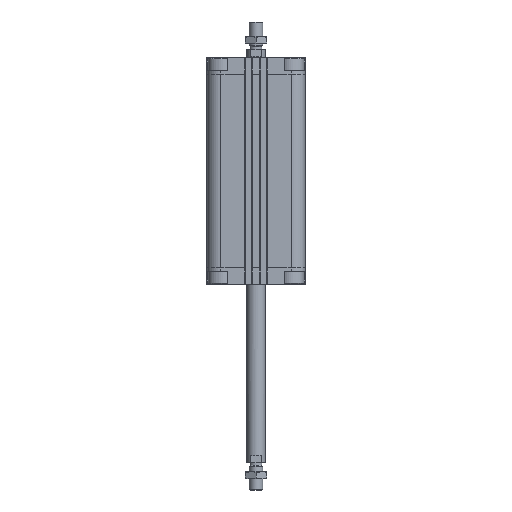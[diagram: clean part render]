
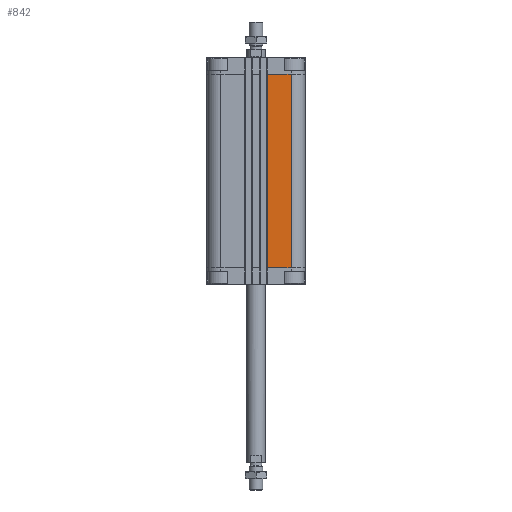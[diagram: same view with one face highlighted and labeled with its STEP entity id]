
A CAD part, front view. The second image highlights one B-rep face of the part: STEP entity #842.
In plain terms, the highlighted planar face has unit normal (0, -1, 0).
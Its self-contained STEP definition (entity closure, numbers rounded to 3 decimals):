
#444 = DIRECTION ( 'NONE',  ( 0., 0., 1. ) ) ;
#758 = CARTESIAN_POINT ( 'NONE',  ( 10.05, -43.5, -185.5 ) ) ;
#842 = ADVANCED_FACE ( 'NONE', ( #20697 ), #9169, .T. ) ;
#974 = LINE ( 'NONE', #4306, #9124 ) ;
#1028 = CARTESIAN_POINT ( 'NONE',  ( 10.05, -43.5, -185.5 ) ) ;
#1225 = AXIS2_PLACEMENT_3D ( 'NONE', #1028, #18848, #2431 ) ;
#1908 = EDGE_CURVE ( 'NONE', #13969, #15557, #974, .T. ) ;
#2431 = DIRECTION ( 'NONE',  ( -1., 0., 0. ) ) ;
#2737 = CARTESIAN_POINT ( 'NONE',  ( 10.05, -43.5, -185.5 ) ) ;
#4306 = CARTESIAN_POINT ( 'NONE',  ( 31., -43.5, -185.5 ) ) ;
#4593 = ORIENTED_EDGE ( 'NONE', *, *, #1908, .T. ) ;
#4834 = VERTEX_POINT ( 'NONE', #11242 ) ;
#6468 = CARTESIAN_POINT ( 'NONE',  ( 10.05, -43.5, -185.5 ) ) ;
#6574 = ORIENTED_EDGE ( 'NONE', *, *, #16703, .F. ) ;
#8370 = VECTOR ( 'NONE', #12810, 1000. ) ;
#9124 = VECTOR ( 'NONE', #18900, 1000. ) ;
#9169 = PLANE ( 'NONE',  #1225 ) ;
#9554 = CARTESIAN_POINT ( 'NONE',  ( 10.05, -43.5, -14.5 ) ) ;
#10599 = EDGE_LOOP ( 'NONE', ( #14112, #6574, #17790, #4593 ) ) ;
#11242 = CARTESIAN_POINT ( 'NONE',  ( 10.05, -43.5, -14.5 ) ) ;
#11251 = VECTOR ( 'NONE', #20858, 1000. ) ;
#12072 = LINE ( 'NONE', #9554, #11251 ) ;
#12810 = DIRECTION ( 'NONE',  ( 1., 0., 0. ) ) ;
#13969 = VERTEX_POINT ( 'NONE', #15548 ) ;
#14105 = CARTESIAN_POINT ( 'NONE',  ( 31., -43.5, -14.5 ) ) ;
#14112 = ORIENTED_EDGE ( 'NONE', *, *, #16436, .F. ) ;
#15463 = LINE ( 'NONE', #758, #16774 ) ;
#15548 = CARTESIAN_POINT ( 'NONE',  ( 31., -43.5, -185.5 ) ) ;
#15557 = VERTEX_POINT ( 'NONE', #14105 ) ;
#16436 = EDGE_CURVE ( 'NONE', #4834, #15557, #12072, .T. ) ;
#16703 = EDGE_CURVE ( 'NONE', #17585, #4834, #15463, .T. ) ;
#16774 = VECTOR ( 'NONE', #444, 1000. ) ;
#17585 = VERTEX_POINT ( 'NONE', #2737 ) ;
#17790 = ORIENTED_EDGE ( 'NONE', *, *, #19236, .T. ) ;
#17851 = LINE ( 'NONE', #6468, #8370 ) ;
#18848 = DIRECTION ( 'NONE',  ( 0., -1., 0. ) ) ;
#18900 = DIRECTION ( 'NONE',  ( 0., 0., 1. ) ) ;
#19236 = EDGE_CURVE ( 'NONE', #17585, #13969, #17851, .T. ) ;
#20697 = FACE_OUTER_BOUND ( 'NONE', #10599, .T. ) ;
#20858 = DIRECTION ( 'NONE',  ( 1., 0., 0. ) ) ;
